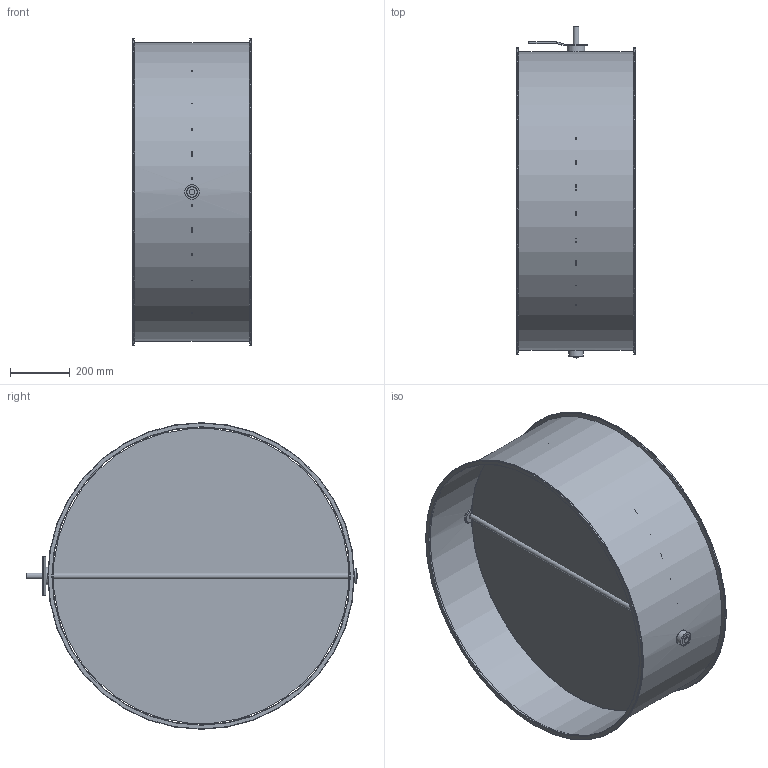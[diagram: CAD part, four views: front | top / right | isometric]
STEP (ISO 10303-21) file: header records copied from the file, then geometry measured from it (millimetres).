
FILE_DESCRIPTION(/* description */ (''),/* implementation_level */ '2;1');
FILE_NAME(/* name */ 'EA117-80B__1000_L400_Belimo_Typ_GM.stp',/* time_stamp */ '2017-12-06T17:33:02+01:00',/* author */ (''),/* organization */ (''),/* preprocessor_version */ 'ST-DEVELOPER v11',/* originating_system */ 'SIEMENS UGS NX 6.0',/* authorisation */ '');
FILE_SCHEMA (('CONFIG_CONTROL_DESIGN'));
Length unit declared in the file: millimetre
Products named in the file (1): gars18E2j2t3
Bounding box: 400 x 1115 x 1030 mm (x, y, z)
Volume: 3617747.6 mm3; surface area: 4384786 mm2
Topology: 8 solids, 8 shells, 79 faces, 167 edges, 106 vertices
Faces by surface type: plane 36, cylinder 35, torus 6, cone 2
Full cylindrical faces by diameter (mm): 8.1 x7, 20 x3, 35 x3, 35.85 x2, 36 x2, 49 x1, 50 x2, 59 x1, 1000 x1, 1002.4 x1, 1030 x2
Entity records: 2094 total; most frequent: CARTESIAN_POINT 400, DIRECTION 352, ORIENTED_EDGE 248, AXIS2_PLACEMENT_3D 152, EDGE_LOOP 144, EDGE_CURVE 124, FACE_BOUND 114, VERTEX_POINT 96
